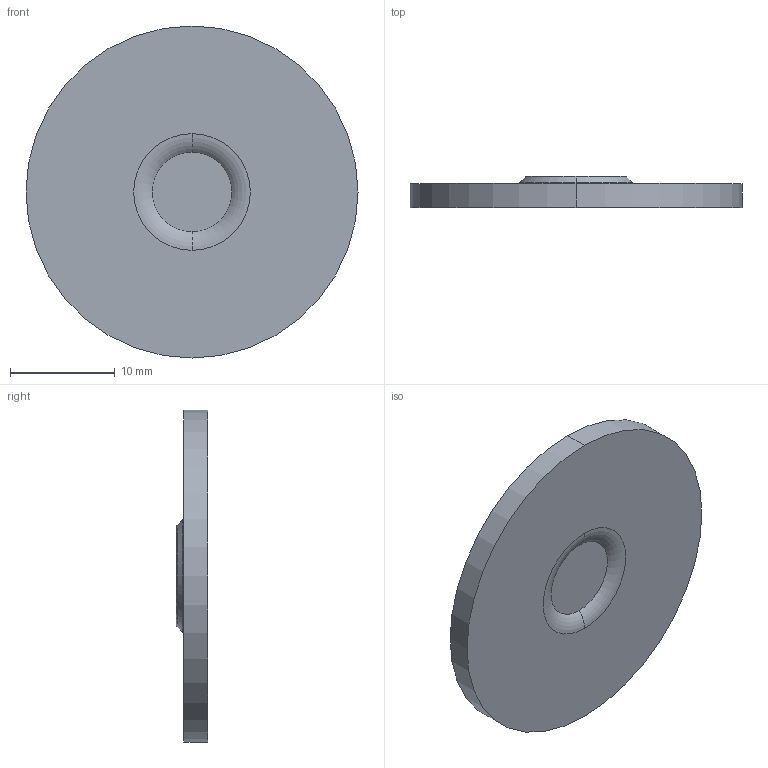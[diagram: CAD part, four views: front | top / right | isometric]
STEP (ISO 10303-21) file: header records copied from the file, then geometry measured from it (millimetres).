
FILE_DESCRIPTION (( 'STEP AP203' ), '1' );
FILE_NAME ('SO 1309904-10.STEP', '2024-09-16T17:19:46', ( '' ), ( '' ), 'SwSTEP 2.0', 'SolidWorks 2024', '' );
FILE_SCHEMA (( 'CONFIG_CONTROL_DESIGN' ));
Length unit declared in the file: inch
Products named in the file (1): SO 1309904-10
Bounding box: 31.75 x 3 x 31.75 mm (x, y, z)
Volume: 1825.6 mm3; surface area: 1825.2 mm2
Topology: 1 solids, 1 shells, 14 faces, 26 edges, 16 vertices
Faces by surface type: torus 6, plane 4, cone 2, cylinder 2
Entity records: 439 total; most frequent: DIRECTION 78, CARTESIAN_POINT 57, ORIENTED_EDGE 52, AXIS2_PLACEMENT_3D 37, EDGE_CURVE 26, CIRCLE 22, EDGE_LOOP 16, VERTEX_POINT 16
